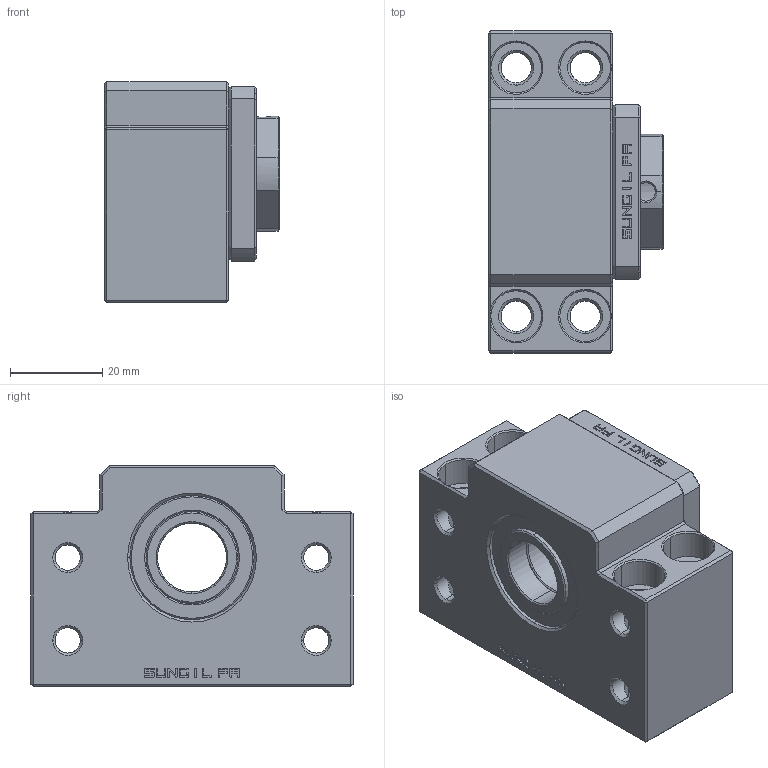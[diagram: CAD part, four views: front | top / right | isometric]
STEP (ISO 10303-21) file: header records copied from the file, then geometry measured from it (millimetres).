
FILE_DESCRIPTION (( 'STEP AP203' ), '1' );
FILE_NAME ('SBK15_STP.STEP', '2006-01-20T11:37:39', ( '歜煽繹' ), ( '' ), 'SwSTEP 2.0', 'SolidWorks 2003240', '' );
FILE_SCHEMA (( 'CONFIG_CONTROL_DESIGN' ));
Length unit declared in the file: millimetre
Products named in the file (10): SBK15(housing)_晦獄 撲薑; SBK15(seal)1_晦獄 撲薑; SBK15_STP; SBK15(bearing)_晦獄 撲薑; SBK15(bearing)1_晦獄 撲薑; SBK15(seal)_晦獄 撲薑; SBK15(collar)_晦獄 撲薑; SBK15(collar)1_晦獄 撲薑; SBK15(locknut)_晦獄 撲薑; SBK15(holdinglid)_晦獄 撲薑
Assembly tree (9 placements, depth 2):
  SBK15_STP
    SBK15(housing)_晦獄 撲薑
    SBK15(bearing)1_晦獄 撲薑
    SBK15(locknut)_晦獄 撲薑
    SBK15(collar)_晦獄 撲薑
    SBK15(seal)_晦獄 撲薑
    SBK15(holdinglid)_晦獄 撲薑
    SBK15(collar)1_晦獄 撲薑
    SBK15(bearing)_晦獄 撲薑
    SBK15(seal)1_晦獄 撲薑
Bounding box: 38 x 70 x 48 mm (x, y, z)
Volume: 74974.1 mm3; surface area: 32252 mm2
Topology: 9 solids, 9 shells, 856 faces, 2218 edges, 1417 vertices
Faces by surface type: plane 350, cylinder 342, cone 160, bspline 4
Entity records: 29567 total; most frequent: CARTESIAN_POINT 6957, DIRECTION 4667, ORIENTED_EDGE 4436, EDGE_CURVE 2218, AXIS2_PLACEMENT_3D 1689, VERTEX_POINT 1417, VECTOR 1289, LINE 1289
